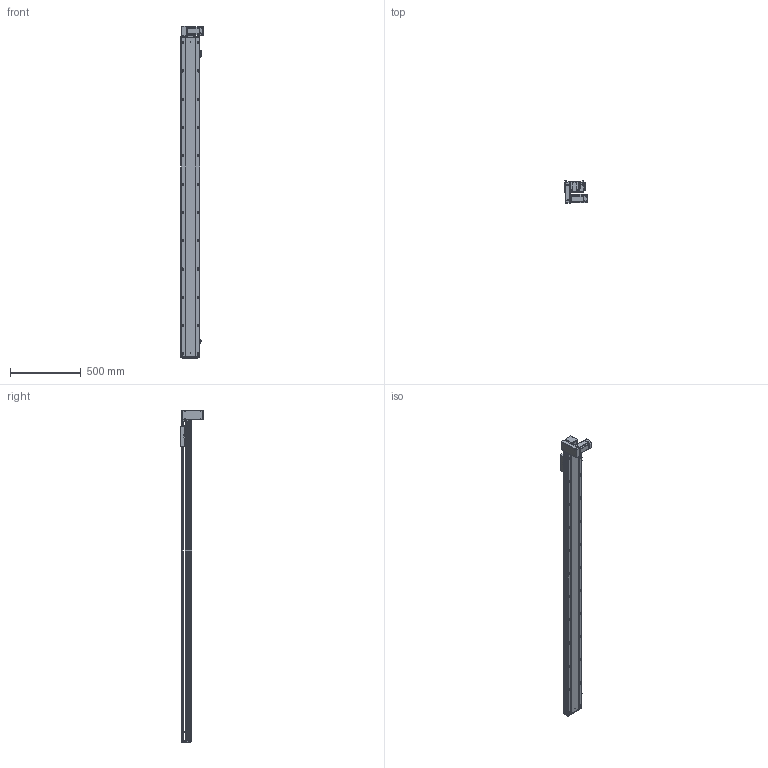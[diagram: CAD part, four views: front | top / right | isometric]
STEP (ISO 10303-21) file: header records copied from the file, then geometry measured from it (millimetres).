
FILE_DESCRIPTION (( 'STEP AP203' ), '1' );
FILE_NAME ('RY140-T-300-DL.SLDASM_2000.step', '2021-03-01T06:07:52', ( '盈信电脑' ), ( '东莞市道滘镇水果街19号' ), 'SwSTEP 2.0', 'SolidWorks 2012', '' );
FILE_SCHEMA (( 'CONFIG_CONTROL_DESIGN' ));
Products named in the file (18): 滅袉蝶18-10; RY140-T-300-DL.SLDASM_2000; RY140-T翋肮謫裔啣; RY120-T主同步轮轴承压盖; 侂狟400W侜督萇儂; RY140-T萇儂欶; RY120-T蹟翐M4; RY140-T萇儂假蚾啣; 15; RY140-T翋肮祭謫盓傅釱; RY120外置感应片(140共用）; RY120-T肮祭湍揤踡輸1; 覜茼ん672; RY120-T肮祭湍揤踡輸2; RY140-T-300-DL倰第菁釱_2000; RY140肮祭謫臏賑輸; RY140-T-300-DL倰第奻裔啣_2000; RY140綴裔啣
Assembly tree (23 placements, depth 3):
  RY140-T-300-DL.SLDASM_2000
    RY140-T-300-DL倰第菁釱_2000
    RY140肮祭謫臏賑輸
    RY140-T-300-DL倰第奻裔啣_2000
    RY140綴裔啣
    覜茼ん672  x3
    RY120外置感应片(140共用）
    RY120-T肮祭湍揤踡輸2
    RY120-T肮祭湍揤踡輸1
    RY140-T翋肮祭謫盓傅釱
    RY140-T萇儂假蚾啣
    侂狟400W侜督萇儂
      15
    RY120-T主同步轮轴承压盖
    RY120-T蹟翐M4  x4
    RY140-T萇儂欶
    滅袉蝶18-10  x2
    RY140-T翋肮謫裔啣
Bounding box: 157 x 158.5 x 2346 mm (x, y, z)
Volume: 6387491.8 mm3; surface area: 2501235.2 mm2
Topology: 22 solids, 22 shells, 2902 faces, 7982 edges, 5078 vertices
Faces by surface type: plane 1389, cylinder 1123, cone 290, bspline 100
Entity records: 91916 total; most frequent: CARTESIAN_POINT 22297, ORIENTED_EDGE 14308, DIRECTION 13688, EDGE_CURVE 7154, VERTEX_POINT 4677, AXIS2_PLACEMENT_3D 4617, VECTOR 4454, LINE 4454
